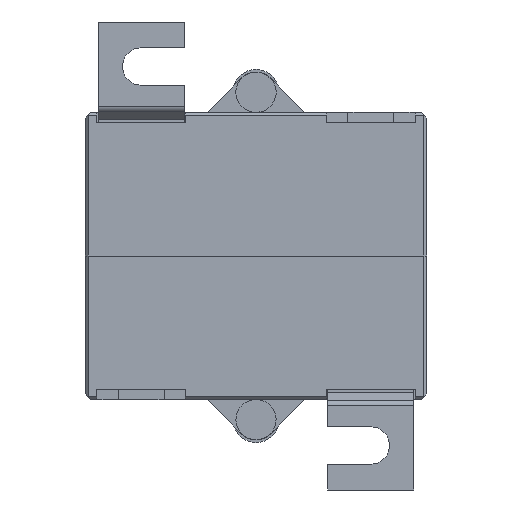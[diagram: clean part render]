
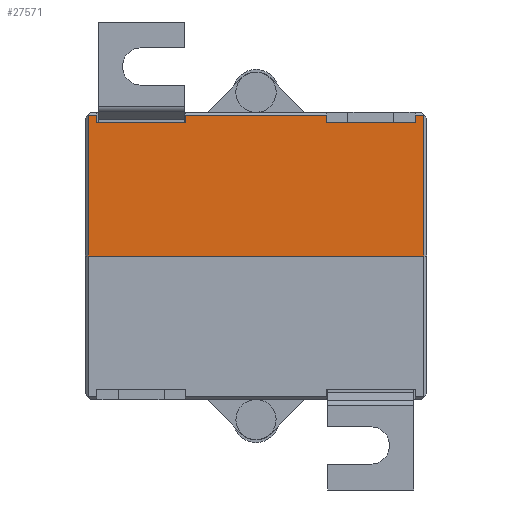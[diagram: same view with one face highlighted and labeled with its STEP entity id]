
A CAD part, front view. The second image highlights one B-rep face of the part: STEP entity #27571.
In plain terms, the highlighted planar face has unit normal (0, -1, 0).
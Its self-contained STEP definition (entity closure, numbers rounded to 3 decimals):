
#1549=PLANE('',#29422);
#2558=FACE_OUTER_BOUND('',#4083,.T.);
#4083=EDGE_LOOP('',(#19282,#19283,#19284,#19285,#19286,#19287,#19288,#19289,
#19290,#19291,#19292,#19293));
#6107=LINE('',#37171,#9140);
#6118=LINE('',#37205,#9151);
#6125=LINE('',#37219,#9158);
#6126=LINE('',#37221,#9159);
#6127=LINE('',#37223,#9160);
#6128=LINE('',#37225,#9161);
#6129=LINE('',#37227,#9162);
#6130=LINE('',#37229,#9163);
#6131=LINE('',#37231,#9164);
#6132=LINE('',#37233,#9165);
#6133=LINE('',#37235,#9166);
#6134=LINE('',#37236,#9167);
#9140=VECTOR('',#31109,10.);
#9151=VECTOR('',#31144,10.);
#9158=VECTOR('',#31155,10.);
#9159=VECTOR('',#31156,10.);
#9160=VECTOR('',#31157,10.);
#9161=VECTOR('',#31158,10.);
#9162=VECTOR('',#31159,10.);
#9163=VECTOR('',#31160,10.);
#9164=VECTOR('',#31161,10.);
#9165=VECTOR('',#31162,10.);
#9166=VECTOR('',#31163,10.);
#9167=VECTOR('',#31164,10.);
#12168=VERTEX_POINT('',#37113);
#12196=VERTEX_POINT('',#37169);
#12207=VERTEX_POINT('',#37204);
#12212=VERTEX_POINT('',#37218);
#12213=VERTEX_POINT('',#37220);
#12214=VERTEX_POINT('',#37222);
#12215=VERTEX_POINT('',#37224);
#12216=VERTEX_POINT('',#37226);
#12217=VERTEX_POINT('',#37228);
#12218=VERTEX_POINT('',#37230);
#12219=VERTEX_POINT('',#37232);
#12220=VERTEX_POINT('',#37234);
#14985=EDGE_CURVE('',#12196,#12168,#6107,.T.);
#15003=EDGE_CURVE('',#12168,#12207,#6118,.T.);
#15010=EDGE_CURVE('',#12212,#12196,#6125,.T.);
#15011=EDGE_CURVE('',#12213,#12212,#6126,.T.);
#15012=EDGE_CURVE('',#12213,#12214,#6127,.T.);
#15013=EDGE_CURVE('',#12214,#12215,#6128,.T.);
#15014=EDGE_CURVE('',#12215,#12216,#6129,.T.);
#15015=EDGE_CURVE('',#12217,#12216,#6130,.T.);
#15016=EDGE_CURVE('',#12217,#12218,#6131,.T.);
#15017=EDGE_CURVE('',#12218,#12219,#6132,.T.);
#15018=EDGE_CURVE('',#12219,#12220,#6133,.T.);
#15019=EDGE_CURVE('',#12207,#12220,#6134,.T.);
#19282=ORIENTED_EDGE('',*,*,#15003,.F.);
#19283=ORIENTED_EDGE('',*,*,#14985,.F.);
#19284=ORIENTED_EDGE('',*,*,#15010,.F.);
#19285=ORIENTED_EDGE('',*,*,#15011,.F.);
#19286=ORIENTED_EDGE('',*,*,#15012,.T.);
#19287=ORIENTED_EDGE('',*,*,#15013,.T.);
#19288=ORIENTED_EDGE('',*,*,#15014,.T.);
#19289=ORIENTED_EDGE('',*,*,#15015,.F.);
#19290=ORIENTED_EDGE('',*,*,#15016,.T.);
#19291=ORIENTED_EDGE('',*,*,#15017,.T.);
#19292=ORIENTED_EDGE('',*,*,#15018,.T.);
#19293=ORIENTED_EDGE('',*,*,#15019,.F.);
#27571=ADVANCED_FACE('',(#2558),#1549,.T.);
#29422=AXIS2_PLACEMENT_3D('',#37217,#31153,#31154);
#31109=DIRECTION('',(1.,0.,0.));
#31144=DIRECTION('',(0.,0.,-1.));
#31153=DIRECTION('center_axis',(0.,-1.,0.));
#31154=DIRECTION('ref_axis',(1.,0.,0.));
#31155=DIRECTION('',(0.,0.,1.));
#31156=DIRECTION('',(-1.,0.,0.));
#31157=DIRECTION('',(0.,0.,1.));
#31158=DIRECTION('',(1.,0.,0.));
#31159=DIRECTION('',(0.,0.,-1.));
#31160=DIRECTION('',(-1.,0.,0.));
#31161=DIRECTION('',(0.,0.,1.));
#31162=DIRECTION('',(1.,0.,0.));
#31163=DIRECTION('',(0.,0.,-1.));
#31164=DIRECTION('',(-1.,0.,0.));
#37113=CARTESIAN_POINT('',(29.25,0.,25.));
#37169=CARTESIAN_POINT('',(-29.25,0.,25.));
#37171=CARTESIAN_POINT('',(-29.75,0.,25.));
#37204=CARTESIAN_POINT('',(29.25,0.,0.5));
#37205=CARTESIAN_POINT('',(29.25,0.,0.));
#37217=CARTESIAN_POINT('Origin',(-29.75,0.,0.));
#37218=CARTESIAN_POINT('',(-29.25,0.,0.5));
#37219=CARTESIAN_POINT('',(-29.25,0.,0.));
#37220=CARTESIAN_POINT('',(-27.7,0.,0.5));
#37221=CARTESIAN_POINT('',(-14.875,0.,0.5));
#37222=CARTESIAN_POINT('',(-27.7,0.,1.8));
#37223=CARTESIAN_POINT('',(-27.7,0.,0.));
#37224=CARTESIAN_POINT('',(-12.3,0.,1.8));
#37225=CARTESIAN_POINT('',(-24.875,0.,1.8));
#37226=CARTESIAN_POINT('',(-12.3,0.,0.5));
#37227=CARTESIAN_POINT('',(-12.3,0.,0.));
#37228=CARTESIAN_POINT('',(12.3,0.,0.5));
#37229=CARTESIAN_POINT('',(-14.875,0.,0.5));
#37230=CARTESIAN_POINT('',(12.3,0.,1.8));
#37231=CARTESIAN_POINT('',(12.3,0.,0.));
#37232=CARTESIAN_POINT('',(27.7,0.,1.8));
#37233=CARTESIAN_POINT('',(-4.875,0.,1.8));
#37234=CARTESIAN_POINT('',(27.7,0.,0.5));
#37235=CARTESIAN_POINT('',(27.7,0.,0.));
#37236=CARTESIAN_POINT('',(-14.875,0.,0.5));
